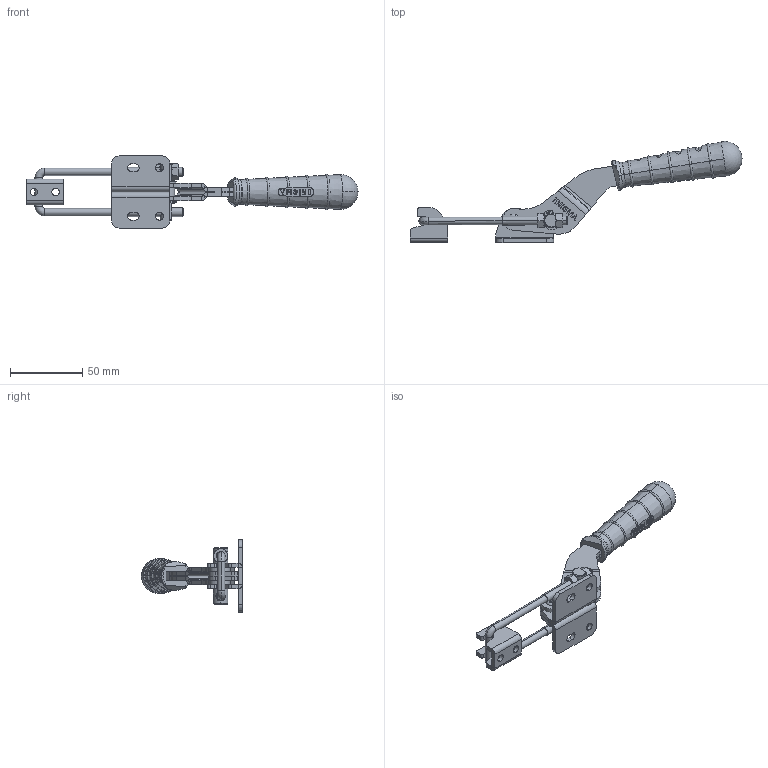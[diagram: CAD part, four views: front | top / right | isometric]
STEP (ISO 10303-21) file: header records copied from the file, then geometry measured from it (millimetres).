
FILE_DESCRIPTION (( 'STEP AP214' ), '1' );
FILE_NAME ('13406_Y.STEP', '2020-07-20T08:01:19', ( '' ), ( '' ), 'SwSTEP 2.0', 'SolidWorks 2019', '' );
FILE_SCHEMA (( 'AUTOMOTIVE_DESIGN' ));
Length unit declared in the file: millimetre
Products named in the file (13): heavy duty external retaining ring_am_B27.8M - 3DM1-10; C90 Tutamak; 13406_Y; 1331_Kanca; 1332_Govde; 1331_Kanca mili; Pim_5x16; M6 U Kanca; Burc_8x5x6; Aynalama1331_酨t_hareket kolu_sag; 1331_酨t_hareket kolu_sag; M6 Somun; Aynalama1332_Govde
Assembly tree (14 placements, depth 2):
  13406_Y
    1332_Govde
    1331_酨t_hareket kolu_sag
    1331_Kanca
    1331_Kanca mili
    M6 U Kanca
    M6 Somun  x2
    Burc_8x5x6
    Pim_5x16
    heavy duty external retaining ring_am_B27.8M - 3DM1-10  x2
    C90 Tutamak
    Aynalama1332_Govde
    Aynalama1331_酨t_hareket kolu_sag
Bounding box: 229.95 x 70.04 x 50 mm (x, y, z)
Volume: 60159.6 mm3; surface area: 40521.1 mm2
Topology: 14 solids, 14 shells, 818 faces, 2085 edges, 1337 vertices
Faces by surface type: plane 416, cylinder 156, bspline 152, cone 47, torus 45, sphere 2
Entity records: 32505 total; most frequent: CARTESIAN_POINT 11911, ORIENTED_EDGE 3960, DIRECTION 3311, EDGE_CURVE 1980, VERTEX_POINT 1270, LINE 1171, VECTOR 1171, AXIS2_PLACEMENT_3D 1070
